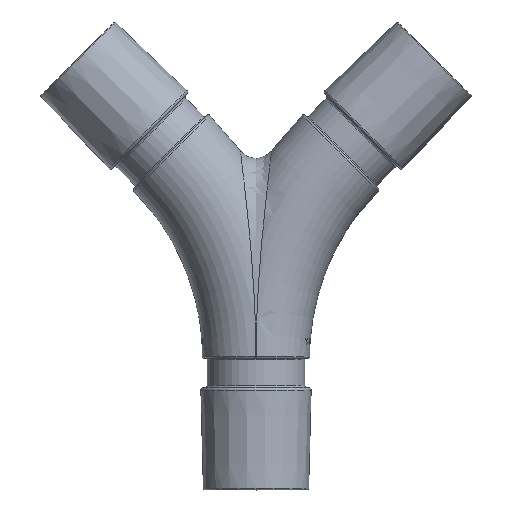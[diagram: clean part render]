
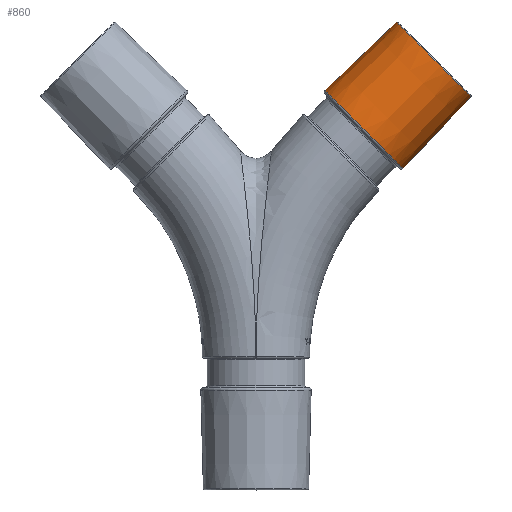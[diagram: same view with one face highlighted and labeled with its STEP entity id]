
A CAD part, top view. The second image highlights one B-rep face of the part: STEP entity #860.
In plain terms, the highlighted conical face has half-angle 1.432 degrees and reference radius 11.335 mm.
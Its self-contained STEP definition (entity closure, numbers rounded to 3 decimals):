
#529=CONICAL_SURFACE('',#3495,11.335,1.432);
#548=LINE('',#4572,#686);
#549=LINE('',#4574,#687);
#686=VECTOR('',#3836,1.);
#687=VECTOR('',#3837,1.);
#860=ADVANCED_FACE('',(#1102),#529,.T.);
#1102=FACE_OUTER_BOUND('',#1282,.T.);
#1282=EDGE_LOOP('',(#1606,#1607,#1608,#1609));
#1606=ORIENTED_EDGE('',*,*,#2882,.T.);
#1607=ORIENTED_EDGE('',*,*,#2879,.T.);
#1608=ORIENTED_EDGE('',*,*,#2883,.T.);
#1609=ORIENTED_EDGE('',*,*,#2880,.F.);
#2529=VERTEX_POINT('',#4565);
#2530=VERTEX_POINT('',#4567);
#2532=VERTEX_POINT('',#4573);
#2533=VERTEX_POINT('',#4575);
#2879=EDGE_CURVE('',#2530,#2532,#548,.T.);
#2880=EDGE_CURVE('',#2529,#2533,#549,.T.);
#2882=EDGE_CURVE('',#2529,#2530,#3355,.T.);
#2883=EDGE_CURVE('',#2532,#2533,#3356,.T.);
#3355=CIRCLE('',#3493,10.815);
#3356=CIRCLE('',#3494,11.322);
#3493=AXIS2_PLACEMENT_3D('',#4578,#3842,#3843);
#3494=AXIS2_PLACEMENT_3D('',#4579,#3844,#3845);
#3495=AXIS2_PLACEMENT_3D('',#4580,#3846,#3847);
#3836=DIRECTION('',(-0.725,-0.689,0.));
#3837=DIRECTION('',(-0.689,-0.725,0.));
#3842=DIRECTION('',(-0.707,-0.707,0.));
#3843=DIRECTION('',(-0.707,0.707,0.));
#3844=DIRECTION('',(0.707,0.707,0.));
#3845=DIRECTION('',(-0.707,0.707,0.));
#3846=DIRECTION('',(-0.707,-0.707,0.));
#3847=DIRECTION('',(-0.707,0.707,0.));
#4565=CARTESIAN_POINT('',(-135.825,129.88,-82.));
#4567=CARTESIAN_POINT('',(-151.12,145.175,-82.));
#4572=CARTESIAN_POINT('',(-166.199,130.831,-82.));
#4573=CARTESIAN_POINT('',(-165.827,131.185,-82.));
#4574=CARTESIAN_POINT('',(-150.169,114.801,-82.));
#4575=CARTESIAN_POINT('',(-149.815,115.173,-82.));
#4578=CARTESIAN_POINT('',(-143.472,137.528,-82.));
#4579=CARTESIAN_POINT('',(-157.821,123.179,-82.));
#4580=CARTESIAN_POINT('',(-158.184,122.816,-82.));
